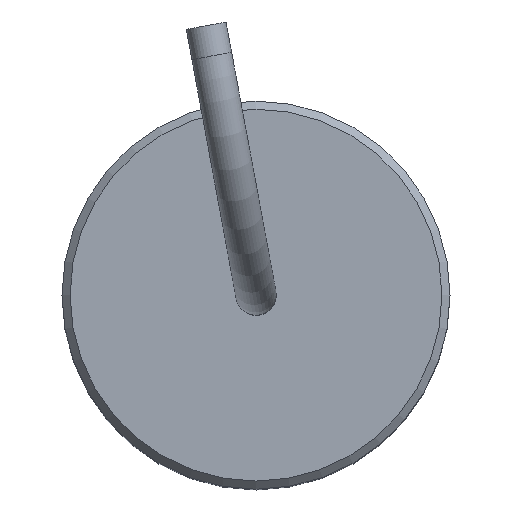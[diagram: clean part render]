
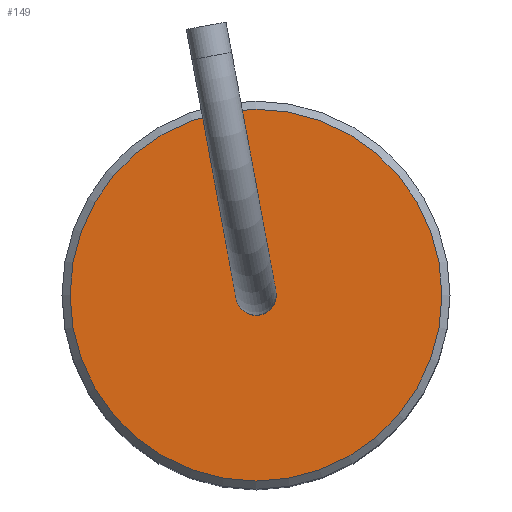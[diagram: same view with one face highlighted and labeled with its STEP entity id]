
A CAD part, top view. The second image highlights one B-rep face of the part: STEP entity #149.
In plain terms, the highlighted planar face has unit normal (0, 0, 1).
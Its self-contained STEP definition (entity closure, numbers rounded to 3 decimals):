
#20=PLANE('',#174);
#31=FACE_BOUND('',#65,.T.);
#43=FACE_OUTER_BOUND('',#64,.T.);
#64=EDGE_LOOP('',(#119));
#65=EDGE_LOOP('',(#120));
#67=CIRCLE('',#154,1.25);
#76=CIRCLE('',#173,11.5);
#78=VERTEX_POINT('',#227);
#87=VERTEX_POINT('',#255);
#89=EDGE_CURVE('',#78,#78,#67,.T.);
#98=EDGE_CURVE('',#87,#87,#76,.T.);
#119=ORIENTED_EDGE('',*,*,#98,.F.);
#120=ORIENTED_EDGE('',*,*,#89,.T.);
#149=ADVANCED_FACE('',(#43,#31),#20,.F.);
#154=AXIS2_PLACEMENT_3D('',#228,#181,#182);
#173=AXIS2_PLACEMENT_3D('',#256,#219,#220);
#174=AXIS2_PLACEMENT_3D('',#257,#221,#222);
#181=DIRECTION('center_axis',(0.,0.,-1.));
#182=DIRECTION('ref_axis',(-0.983,-0.182,0.));
#219=DIRECTION('center_axis',(0.,0.,-1.));
#220=DIRECTION('ref_axis',(-1.,0.,0.));
#221=DIRECTION('center_axis',(0.,0.,-1.));
#222=DIRECTION('ref_axis',(-1.,0.,0.));
#227=CARTESIAN_POINT('',(1.229,0.228,15.));
#228=CARTESIAN_POINT('Origin',(0.,0.,15.));
#255=CARTESIAN_POINT('',(11.5,0.,15.));
#256=CARTESIAN_POINT('Origin',(0.,0.,15.));
#257=CARTESIAN_POINT('Origin',(0.,0.,15.));
